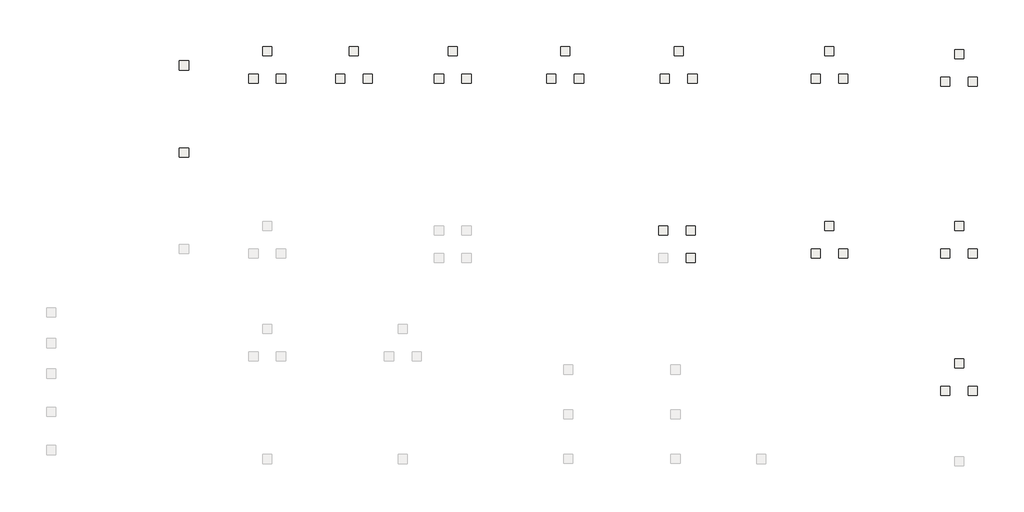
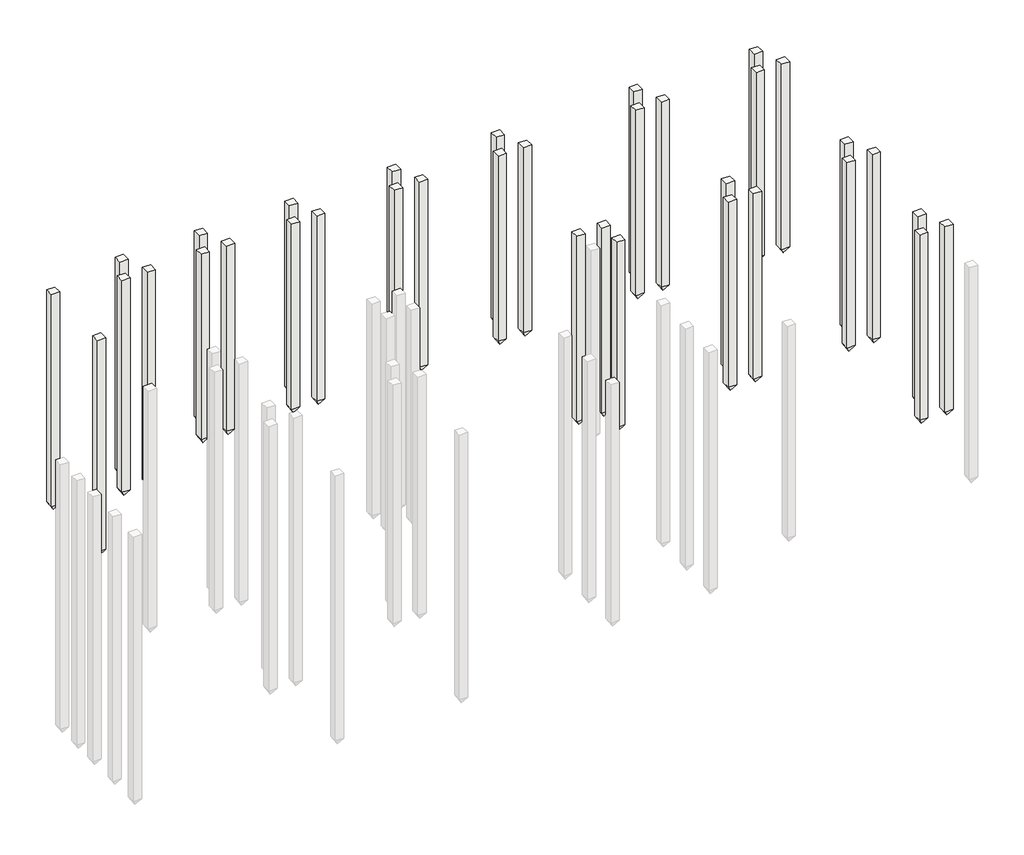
# One storey, part 6 of 6: 35 slabs.
"""IFC4 building model written with IfcOpenShell, lengths in millimetres."""

from ifc_helpers import new_model, si_unit, origin, place, context, project, spatial, faceted_brep, element, save

model = new_model("IFC4")

# Units and contexts
model_context = context("Model", 3, world=origin())
ifc_project = project(units=[si_unit("LENGTHUNIT", "METRE", prefix="MILLI")], contexts=[model_context])

# Site, building, storey
site = spatial("IfcSite", under=ifc_project)
building = spatial("IfcBuilding", under=site)
storey = spatial("IfcBuildingStorey", under=building, Name="КЖм.-1.150 (Верх свай 1)", Elevation=-1150.0)

# Slabs
placement = place(None, origin())
element("IfcSlab", 1, ObjectType="Бетонная свая прямоугольного сечения : C70.30-8", at=placement, inside=storey, context=model_context, shape_type="Brep", body=[
    faceted_brep([(51163.050956, 29934.4354275, -1150.0), (50863.050956, 29934.4354275, -1150.0), (50863.050956, 29634.4354275, -1150.0), (51163.050956, 29634.4354275, -1150.0), (51163.050956, 29934.4354275, -1200.0), (51163.050956, 29934.4354275, -1300.0), (51163.050956, 29934.4354275, -8150.0), (50863.050956, 29934.4354275, -8150.0), (50863.050956, 29934.4354275, -1300.0), (50863.050956, 29934.4354275, -1200.0), (50863.050956, 29634.4354275, -8150.0), (50863.050956, 29634.4354275, -1300.0), (50863.050956, 29634.4354275, -1200.0), (51163.050956, 29634.4354275, -8150.0), (51163.050956, 29634.4354275, -1300.0), (51163.050956, 29634.4354275, -1200.0), (51013.4735173, 29784.8156726, -8400.0), (51013.4735173, 29784.0156726, -8400.0), (51012.6735173, 29784.0156726, -8400.0), (51012.6735173, 29784.8156726, -8400.0)], [[[0, 1, 2, 3]], [[1, 0, 4, 5, 6, 7, 8, 9]], [[2, 1, 9, 8, 7, 10, 11, 12]], [[3, 2, 12, 11, 10, 13, 14, 15]], [[0, 3, 15, 14, 13, 6, 5, 4]], [[16, 17, 18, 19]], [[17, 16, 6, 13]], [[18, 17, 13, 10]], [[19, 18, 10, 7]], [[16, 19, 7, 6]]]),
])
element("IfcSlab", 2, ObjectType="Бетонная свая прямоугольного сечения : C70.30-8", at=placement, inside=storey, context=model_context, shape_type="Brep", body=[
    faceted_brep([(60383.0255217, 34804.4786856, -1150.0), (60083.0255217, 34804.4786856, -1150.0), (60083.0255217, 34504.4786856, -1150.0), (60383.0255217, 34504.4786856, -1150.0), (60383.0255217, 34804.4786856, -1200.0), (60383.0255217, 34804.4786856, -1300.0), (60383.0255217, 34804.4786856, -8150.0), (60083.0255217, 34804.4786856, -8150.0), (60083.0255217, 34804.4786856, -1300.0), (60083.0255217, 34804.4786856, -1200.0), (60083.0255217, 34504.4786856, -8150.0), (60083.0255217, 34504.4786856, -1300.0), (60083.0255217, 34504.4786856, -1200.0), (60383.0255217, 34504.4786856, -8150.0), (60383.0255217, 34504.4786856, -1300.0), (60383.0255217, 34504.4786856, -1200.0), (60233.4480829, 34654.8589307, -8400.0), (60233.4480829, 34654.0589307, -8400.0), (60232.6480829, 34654.0589307, -8400.0), (60232.6480829, 34654.8589307, -8400.0)], [[[0, 1, 2, 3]], [[1, 0, 4, 5, 6, 7, 8, 9]], [[2, 1, 9, 8, 7, 10, 11, 12]], [[3, 2, 12, 11, 10, 13, 14, 15]], [[0, 3, 15, 14, 13, 6, 5, 4]], [[16, 17, 18, 19]], [[17, 16, 6, 13]], [[18, 17, 13, 10]], [[19, 18, 10, 7]], [[16, 19, 7, 6]]]),
])
element("IfcSlab", 3, ObjectType="Бетонная свая прямоугольного сечения : C70.30-8", at=placement, inside=storey, context=model_context, shape_type="Brep", body=[
    faceted_brep([(60833.0481815, 35704.4786829, -1150.0), (60533.0481815, 35704.4786829, -1150.0), (60533.0481815, 35404.4786829, -1150.0), (60833.0481815, 35404.4786829, -1150.0), (60833.0481815, 35704.4786829, -1200.0), (60833.0481815, 35704.4786829, -1300.0), (60833.0481815, 35704.4786829, -8150.0), (60533.0481815, 35704.4786829, -8150.0), (60533.0481815, 35704.4786829, -1300.0), (60533.0481815, 35704.4786829, -1200.0), (60533.0481815, 35404.4786829, -8150.0), (60533.0481815, 35404.4786829, -1300.0), (60533.0481815, 35404.4786829, -1200.0), (60833.0481815, 35404.4786829, -8150.0), (60833.0481815, 35404.4786829, -1300.0), (60833.0481815, 35404.4786829, -1200.0), (60683.4707427, 35554.858928, -8400.0), (60683.4707427, 35554.058928, -8400.0), (60682.6707427, 35554.058928, -8400.0), (60682.6707427, 35554.858928, -8400.0)], [[[0, 1, 2, 3]], [[1, 0, 4, 5, 6, 7, 8, 9]], [[2, 1, 9, 8, 7, 10, 11, 12]], [[3, 2, 12, 11, 10, 13, 14, 15]], [[0, 3, 15, 14, 13, 6, 5, 4]], [[16, 17, 18, 19]], [[17, 16, 6, 13]], [[18, 17, 13, 10]], [[19, 18, 10, 7]], [[16, 19, 7, 6]]]),
])
element("IfcSlab", 4, ObjectType="Бетонная свая прямоугольного сечения : C70.30-8", at=placement, inside=storey, context=model_context, shape_type="Brep", body=[
    faceted_brep([(60982.9772368, 34804.4785941, -1150.0), (60982.9771454, 34504.4785941, -1150.0), (61282.9771454, 34504.4785026, -1150.0), (61282.9772368, 34804.4785026, -1150.0), (61282.9772368, 34804.4785026, -1200.0), (61282.9772368, 34804.4785026, -1300.0), (61282.9772368, 34804.4785026, -8150.0), (60982.9772368, 34804.4785941, -8150.0), (60982.9772368, 34804.4785941, -1300.0), (60982.9772368, 34804.4785941, -1200.0), (61282.9771454, 34504.4785026, -1200.0), (61282.9771454, 34504.4785026, -1300.0), (61282.9771454, 34504.4785026, -8150.0), (60982.9771454, 34504.4785941, -1200.0), (60982.9771454, 34504.4785941, -1300.0), (60982.9771454, 34504.4785941, -8150.0), (61132.55463, 34654.8587936, -8400.0), (61133.35463, 34654.8587934, -8400.0), (61133.3546297, 34654.0587934, -8400.0), (61132.5546297, 34654.0587936, -8400.0)], [[[0, 1, 2, 3]], [[3, 4, 5, 6, 7, 8, 9, 0]], [[2, 10, 11, 12, 6, 5, 4, 3]], [[1, 13, 14, 15, 12, 11, 10, 2]], [[0, 9, 8, 7, 15, 14, 13, 1]], [[16, 17, 18, 19]], [[19, 15, 7, 16]], [[18, 12, 15, 19]], [[17, 6, 12, 18]], [[16, 7, 6, 17]]]),
])
element("IfcSlab", 5, ObjectType="Бетонная свая прямоугольного сечения : C70.30-8", at=placement, inside=storey, context=model_context, shape_type="Brep", body=[
    faceted_brep([(56143.0513106, 34904.4703543, -1150.0), (55843.0513106, 34904.4703543, -1150.0), (55843.0513106, 34604.4703543, -1150.0), (56143.0513106, 34604.4703543, -1150.0), (56143.0513106, 34904.4703543, -1200.0), (56143.0513106, 34904.4703543, -1300.0), (56143.0513106, 34904.4703543, -8150.0), (55843.0513106, 34904.4703543, -8150.0), (55843.0513106, 34904.4703543, -1300.0), (55843.0513106, 34904.4703543, -1200.0), (55843.0513106, 34604.4703543, -8150.0), (55843.0513106, 34604.4703543, -1300.0), (55843.0513106, 34604.4703543, -1200.0), (56143.0513106, 34604.4703543, -8150.0), (56143.0513106, 34604.4703543, -1300.0), (56143.0513106, 34604.4703543, -1200.0), (55993.4738718, 34754.8505994, -8400.0), (55993.4738718, 34754.0505994, -8400.0), (55992.6738718, 34754.0505994, -8400.0), (55992.6738718, 34754.8505994, -8400.0)], [[[0, 1, 2, 3]], [[1, 0, 4, 5, 6, 7, 8, 9]], [[2, 1, 9, 8, 7, 10, 11, 12]], [[3, 2, 12, 11, 10, 13, 14, 15]], [[0, 3, 15, 14, 13, 6, 5, 4]], [[16, 17, 18, 19]], [[17, 16, 6, 13]], [[18, 17, 13, 10]], [[19, 18, 10, 7]], [[16, 19, 7, 6]]]),
])
element("IfcSlab", 6, ObjectType="Бетонная свая прямоугольного сечения : C70.30-8", at=placement, inside=storey, context=model_context, shape_type="Brep", body=[
    faceted_brep([(56593.0772825, 35804.4703516, -1150.0), (56293.0772825, 35804.4703516, -1150.0), (56293.0772825, 35504.4703516, -1150.0), (56593.0772825, 35504.4703516, -1150.0), (56593.0772825, 35804.4703516, -1200.0), (56593.0772825, 35804.4703516, -1300.0), (56593.0772825, 35804.4703516, -8150.0), (56293.0772825, 35804.4703516, -8150.0), (56293.0772825, 35804.4703516, -1300.0), (56293.0772825, 35804.4703516, -1200.0), (56293.0772825, 35504.4703516, -8150.0), (56293.0772825, 35504.4703516, -1300.0), (56293.0772825, 35504.4703516, -1200.0), (56593.0772825, 35504.4703516, -8150.0), (56593.0772825, 35504.4703516, -1300.0), (56593.0772825, 35504.4703516, -1200.0), (56443.4998438, 35654.8505967, -8400.0), (56443.4998438, 35654.0505967, -8400.0), (56442.6998438, 35654.0505967, -8400.0), (56442.6998438, 35654.8505967, -8400.0)], [[[0, 1, 2, 3]], [[1, 0, 4, 5, 6, 7, 8, 9]], [[2, 1, 9, 8, 7, 10, 11, 12]], [[3, 2, 12, 11, 10, 13, 14, 15]], [[0, 3, 15, 14, 13, 6, 5, 4]], [[16, 17, 18, 19]], [[17, 16, 6, 13]], [[18, 17, 13, 10]], [[19, 18, 10, 7]], [[16, 19, 7, 6]]]),
])
element("IfcSlab", 7, ObjectType="Бетонная свая прямоугольного сечения : C70.30-8", at=placement, inside=storey, context=model_context, shape_type="Brep", body=[
    faceted_brep([(56743.0030258, 34904.4702628, -1150.0), (56743.0029343, 34604.4702628, -1150.0), (57043.0029343, 34604.4701713, -1150.0), (57043.0030258, 34904.4701713, -1150.0), (57043.0030258, 34904.4701713, -1200.0), (57043.0030258, 34904.4701713, -1300.0), (57043.0030258, 34904.4701713, -8150.0), (56743.0030258, 34904.4702628, -8150.0), (56743.0030258, 34904.4702628, -1300.0), (56743.0030258, 34904.4702628, -1200.0), (57043.0029343, 34604.4701713, -1200.0), (57043.0029343, 34604.4701713, -1300.0), (57043.0029343, 34604.4701713, -8150.0), (56743.0029343, 34604.4702628, -1200.0), (56743.0029343, 34604.4702628, -1300.0), (56743.0029343, 34604.4702628, -8150.0), (56892.5804189, 34754.8504623, -8400.0), (56893.3804189, 34754.8504621, -8400.0), (56893.3804187, 34754.0504621, -8400.0), (56892.5804187, 34754.0504623, -8400.0)], [[[0, 1, 2, 3]], [[3, 4, 5, 6, 7, 8, 9, 0]], [[2, 10, 11, 12, 6, 5, 4, 3]], [[1, 13, 14, 15, 12, 11, 10, 2]], [[0, 9, 8, 7, 15, 14, 13, 1]], [[16, 17, 18, 19]], [[19, 15, 7, 16]], [[18, 12, 15, 19]], [[17, 6, 12, 18]], [[16, 7, 6, 17]]]),
])
element("IfcSlab", 8, ObjectType="Бетонная свая прямоугольного сечения : C70.30-8", at=placement, inside=storey, context=model_context, shape_type="Brep", body=[
    faceted_brep([(51218.0515965, 34904.4703543, -1150.0), (50918.0515965, 34904.4703543, -1150.0), (50918.0515965, 34604.4703543, -1150.0), (51218.0515965, 34604.4703543, -1150.0), (51218.0515965, 34904.4703543, -1200.0), (51218.0515965, 34904.4703543, -1300.0), (51218.0515965, 34904.4703543, -8150.0), (50918.0515965, 34904.4703543, -8150.0), (50918.0515965, 34904.4703543, -1300.0), (50918.0515965, 34904.4703543, -1200.0), (50918.0515965, 34604.4703543, -8150.0), (50918.0515965, 34604.4703543, -1300.0), (50918.0515965, 34604.4703543, -1200.0), (51218.0515965, 34604.4703543, -8150.0), (51218.0515965, 34604.4703543, -1300.0), (51218.0515965, 34604.4703543, -1200.0), (51068.4741578, 34754.8505994, -8400.0), (51068.4741578, 34754.0505994, -8400.0), (51067.6741578, 34754.0505994, -8400.0), (51067.6741578, 34754.8505994, -8400.0)], [[[0, 1, 2, 3]], [[1, 0, 4, 5, 6, 7, 8, 9]], [[2, 1, 9, 8, 7, 10, 11, 12]], [[3, 2, 12, 11, 10, 13, 14, 15]], [[0, 3, 15, 14, 13, 6, 5, 4]], [[16, 17, 18, 19]], [[17, 16, 6, 13]], [[18, 17, 13, 10]], [[19, 18, 10, 7]], [[16, 19, 7, 6]]]),
])
element("IfcSlab", 9, ObjectType="Бетонная свая прямоугольного сечения : C70.30-8", at=placement, inside=storey, context=model_context, shape_type="Brep", body=[
    faceted_brep([(51668.0775685, 35804.4703516, -1150.0), (51368.0775685, 35804.4703516, -1150.0), (51368.0775685, 35504.4703516, -1150.0), (51668.0775685, 35504.4703516, -1150.0), (51668.0775685, 35804.4703516, -1200.0), (51668.0775685, 35804.4703516, -1300.0), (51668.0775685, 35804.4703516, -8150.0), (51368.0775685, 35804.4703516, -8150.0), (51368.0775685, 35804.4703516, -1300.0), (51368.0775685, 35804.4703516, -1200.0), (51368.0775685, 35504.4703516, -8150.0), (51368.0775685, 35504.4703516, -1300.0), (51368.0775685, 35504.4703516, -1200.0), (51668.0775685, 35504.4703516, -8150.0), (51668.0775685, 35504.4703516, -1300.0), (51668.0775685, 35504.4703516, -1200.0), (51518.5001297, 35654.8505967, -8400.0), (51518.5001297, 35654.0505967, -8400.0), (51517.7001297, 35654.0505967, -8400.0), (51517.7001297, 35654.8505967, -8400.0)], [[[0, 1, 2, 3]], [[1, 0, 4, 5, 6, 7, 8, 9]], [[2, 1, 9, 8, 7, 10, 11, 12]], [[3, 2, 12, 11, 10, 13, 14, 15]], [[0, 3, 15, 14, 13, 6, 5, 4]], [[16, 17, 18, 19]], [[17, 16, 6, 13]], [[18, 17, 13, 10]], [[19, 18, 10, 7]], [[16, 19, 7, 6]]]),
])
element("IfcSlab", 10, ObjectType="Бетонная свая прямоугольного сечения : C70.30-8", at=placement, inside=storey, context=model_context, shape_type="Brep", body=[
    faceted_brep([(51818.0033117, 34904.4702628, -1150.0), (51818.0032202, 34604.4702628, -1150.0), (52118.0032202, 34604.4701713, -1150.0), (52118.0033117, 34904.4701713, -1150.0), (52118.0033117, 34904.4701713, -1200.0), (52118.0033117, 34904.4701713, -1300.0), (52118.0033117, 34904.4701713, -8150.0), (51818.0033117, 34904.4702628, -8150.0), (51818.0033117, 34904.4702628, -1300.0), (51818.0033117, 34904.4702628, -1200.0), (52118.0032202, 34604.4701713, -1200.0), (52118.0032202, 34604.4701713, -1300.0), (52118.0032202, 34604.4701713, -8150.0), (51818.0032202, 34604.4702628, -1200.0), (51818.0032202, 34604.4702628, -1300.0), (51818.0032202, 34604.4702628, -8150.0), (51967.5807049, 34754.8504623, -8400.0), (51968.3807049, 34754.8504621, -8400.0), (51968.3807046, 34754.0504621, -8400.0), (51967.5807046, 34754.0504623, -8400.0)], [[[0, 1, 2, 3]], [[3, 4, 5, 6, 7, 8, 9, 0]], [[2, 10, 11, 12, 6, 5, 4, 3]], [[1, 13, 14, 15, 12, 11, 10, 2]], [[0, 9, 8, 7, 15, 14, 13, 1]], [[16, 17, 18, 19]], [[19, 15, 7, 16]], [[18, 12, 15, 19]], [[17, 6, 12, 18]], [[16, 7, 6, 17]]]),
])
element("IfcSlab", 11, ObjectType="Бетонная свая прямоугольного сечения : C70.30-8", at=placement, inside=storey, context=model_context, shape_type="Brep", body=[
    faceted_brep([(47508.0512918, 34904.4703543, -1150.0), (47208.0512918, 34904.4703543, -1150.0), (47208.0512918, 34604.4703543, -1150.0), (47508.0512918, 34604.4703543, -1150.0), (47508.0512918, 34904.4703543, -1200.0), (47508.0512918, 34904.4703543, -1300.0), (47508.0512918, 34904.4703543, -8150.0), (47208.0512918, 34904.4703543, -8150.0), (47208.0512918, 34904.4703543, -1300.0), (47208.0512918, 34904.4703543, -1200.0), (47208.0512918, 34604.4703543, -8150.0), (47208.0512918, 34604.4703543, -1300.0), (47208.0512918, 34604.4703543, -1200.0), (47508.0512918, 34604.4703543, -8150.0), (47508.0512918, 34604.4703543, -1300.0), (47508.0512918, 34604.4703543, -1200.0), (47358.473853, 34754.8505994, -8400.0), (47358.473853, 34754.0505994, -8400.0), (47357.673853, 34754.0505994, -8400.0), (47357.673853, 34754.8505994, -8400.0)], [[[0, 1, 2, 3]], [[1, 0, 4, 5, 6, 7, 8, 9]], [[2, 1, 9, 8, 7, 10, 11, 12]], [[3, 2, 12, 11, 10, 13, 14, 15]], [[0, 3, 15, 14, 13, 6, 5, 4]], [[16, 17, 18, 19]], [[17, 16, 6, 13]], [[18, 17, 13, 10]], [[19, 18, 10, 7]], [[16, 19, 7, 6]]]),
])
element("IfcSlab", 12, ObjectType="Бетонная свая прямоугольного сечения : C70.30-8", at=placement, inside=storey, context=model_context, shape_type="Brep", body=[
    faceted_brep([(47958.0772637, 35804.4703516, -1150.0), (47658.0772637, 35804.4703516, -1150.0), (47658.0772637, 35504.4703516, -1150.0), (47958.0772637, 35504.4703516, -1150.0), (47958.0772637, 35804.4703516, -1200.0), (47958.0772637, 35804.4703516, -1300.0), (47958.0772637, 35804.4703516, -8150.0), (47658.0772637, 35804.4703516, -8150.0), (47658.0772637, 35804.4703516, -1300.0), (47658.0772637, 35804.4703516, -1200.0), (47658.0772637, 35504.4703516, -8150.0), (47658.0772637, 35504.4703516, -1300.0), (47658.0772637, 35504.4703516, -1200.0), (47958.0772637, 35504.4703516, -8150.0), (47958.0772637, 35504.4703516, -1300.0), (47958.0772637, 35504.4703516, -1200.0), (47808.4998249, 35654.8505967, -8400.0), (47808.4998249, 35654.0505967, -8400.0), (47807.6998249, 35654.0505967, -8400.0), (47807.6998249, 35654.8505967, -8400.0)], [[[0, 1, 2, 3]], [[1, 0, 4, 5, 6, 7, 8, 9]], [[2, 1, 9, 8, 7, 10, 11, 12]], [[3, 2, 12, 11, 10, 13, 14, 15]], [[0, 3, 15, 14, 13, 6, 5, 4]], [[16, 17, 18, 19]], [[17, 16, 6, 13]], [[18, 17, 13, 10]], [[19, 18, 10, 7]], [[16, 19, 7, 6]]]),
])
element("IfcSlab", 13, ObjectType="Бетонная свая прямоугольного сечения : C70.30-8", at=placement, inside=storey, context=model_context, shape_type="Brep", body=[
    faceted_brep([(48108.003007, 34904.4702628, -1150.0), (48108.0029155, 34604.4702628, -1150.0), (48408.0029155, 34604.4701713, -1150.0), (48408.003007, 34904.4701713, -1150.0), (48408.003007, 34904.4701713, -1200.0), (48408.003007, 34904.4701713, -1300.0), (48408.003007, 34904.4701713, -8150.0), (48108.003007, 34904.4702628, -8150.0), (48108.003007, 34904.4702628, -1300.0), (48108.003007, 34904.4702628, -1200.0), (48408.0029155, 34604.4701713, -1200.0), (48408.0029155, 34604.4701713, -1300.0), (48408.0029155, 34604.4701713, -8150.0), (48108.0029155, 34604.4702628, -1200.0), (48108.0029155, 34604.4702628, -1300.0), (48108.0029155, 34604.4702628, -8150.0), (48257.5804001, 34754.8504623, -8400.0), (48258.3804001, 34754.8504621, -8400.0), (48258.3803999, 34754.0504621, -8400.0), (48257.5803999, 34754.0504623, -8400.0)], [[[0, 1, 2, 3]], [[3, 4, 5, 6, 7, 8, 9, 0]], [[2, 10, 11, 12, 6, 5, 4, 3]], [[1, 13, 14, 15, 12, 11, 10, 2]], [[0, 9, 8, 7, 15, 14, 13, 1]], [[16, 17, 18, 19]], [[19, 15, 7, 16]], [[18, 12, 15, 19]], [[17, 6, 12, 18]], [[16, 7, 6, 17]]]),
])
element("IfcSlab", 14, ObjectType="Бетонная свая прямоугольного сечения : C70.30-8", at=placement, inside=storey, context=model_context, shape_type="Brep", body=[
    faceted_brep([(43833.0510704, 34904.4703543, -1150.0), (43533.0510704, 34904.4703543, -1150.0), (43533.0510704, 34604.4703543, -1150.0), (43833.0510704, 34604.4703543, -1150.0), (43833.0510704, 34904.4703543, -1200.0), (43833.0510704, 34904.4703543, -1300.0), (43833.0510704, 34904.4703543, -8150.0), (43533.0510704, 34904.4703543, -8150.0), (43533.0510704, 34904.4703543, -1300.0), (43533.0510704, 34904.4703543, -1200.0), (43533.0510704, 34604.4703543, -8150.0), (43533.0510704, 34604.4703543, -1300.0), (43533.0510704, 34604.4703543, -1200.0), (43833.0510704, 34604.4703543, -8150.0), (43833.0510704, 34604.4703543, -1300.0), (43833.0510704, 34604.4703543, -1200.0), (43683.4736316, 34754.8505994, -8400.0), (43683.4736316, 34754.0505994, -8400.0), (43682.6736316, 34754.0505994, -8400.0), (43682.6736316, 34754.8505994, -8400.0)], [[[0, 1, 2, 3]], [[1, 0, 4, 5, 6, 7, 8, 9]], [[2, 1, 9, 8, 7, 10, 11, 12]], [[3, 2, 12, 11, 10, 13, 14, 15]], [[0, 3, 15, 14, 13, 6, 5, 4]], [[16, 17, 18, 19]], [[17, 16, 6, 13]], [[18, 17, 13, 10]], [[19, 18, 10, 7]], [[16, 19, 7, 6]]]),
])
element("IfcSlab", 15, ObjectType="Бетонная свая прямоугольного сечения : C70.30-8", at=placement, inside=storey, context=model_context, shape_type="Brep", body=[
    faceted_brep([(44283.0770423, 35804.4703516, -1150.0), (43983.0770423, 35804.4703516, -1150.0), (43983.0770423, 35504.4703516, -1150.0), (44283.0770423, 35504.4703516, -1150.0), (44283.0770423, 35804.4703516, -1200.0), (44283.0770423, 35804.4703516, -1300.0), (44283.0770423, 35804.4703516, -8150.0), (43983.0770423, 35804.4703516, -8150.0), (43983.0770423, 35804.4703516, -1300.0), (43983.0770423, 35804.4703516, -1200.0), (43983.0770423, 35504.4703516, -8150.0), (43983.0770423, 35504.4703516, -1300.0), (43983.0770423, 35504.4703516, -1200.0), (44283.0770423, 35504.4703516, -8150.0), (44283.0770423, 35504.4703516, -1300.0), (44283.0770423, 35504.4703516, -1200.0), (44133.4996035, 35654.8505967, -8400.0), (44133.4996035, 35654.0505967, -8400.0), (44132.6996035, 35654.0505967, -8400.0), (44132.6996035, 35654.8505967, -8400.0)], [[[0, 1, 2, 3]], [[1, 0, 4, 5, 6, 7, 8, 9]], [[2, 1, 9, 8, 7, 10, 11, 12]], [[3, 2, 12, 11, 10, 13, 14, 15]], [[0, 3, 15, 14, 13, 6, 5, 4]], [[16, 17, 18, 19]], [[17, 16, 6, 13]], [[18, 17, 13, 10]], [[19, 18, 10, 7]], [[16, 19, 7, 6]]]),
])
element("IfcSlab", 16, ObjectType="Бетонная свая прямоугольного сечения : C70.30-8", at=placement, inside=storey, context=model_context, shape_type="Brep", body=[
    faceted_brep([(44433.0027856, 34904.4702628, -1150.0), (44433.0026941, 34604.4702628, -1150.0), (44733.0026941, 34604.4701713, -1150.0), (44733.0027856, 34904.4701713, -1150.0), (44733.0027856, 34904.4701713, -1200.0), (44733.0027856, 34904.4701713, -1300.0), (44733.0027856, 34904.4701713, -8150.0), (44433.0027856, 34904.4702628, -8150.0), (44433.0027856, 34904.4702628, -1300.0), (44433.0027856, 34904.4702628, -1200.0), (44733.0026941, 34604.4701713, -1200.0), (44733.0026941, 34604.4701713, -1300.0), (44733.0026941, 34604.4701713, -8150.0), (44433.0026941, 34604.4702628, -1200.0), (44433.0026941, 34604.4702628, -1300.0), (44433.0026941, 34604.4702628, -8150.0), (44582.5801787, 34754.8504623, -8400.0), (44583.3801787, 34754.8504621, -8400.0), (44583.3801785, 34754.0504621, -8400.0), (44582.5801785, 34754.0504623, -8400.0)], [[[0, 1, 2, 3]], [[3, 4, 5, 6, 7, 8, 9, 0]], [[2, 10, 11, 12, 6, 5, 4, 3]], [[1, 13, 14, 15, 12, 11, 10, 2]], [[0, 9, 8, 7, 15, 14, 13, 1]], [[16, 17, 18, 19]], [[19, 15, 7, 16]], [[18, 12, 15, 19]], [[17, 6, 12, 18]], [[16, 7, 6, 17]]]),
])
element("IfcSlab", 17, ObjectType="Бетонная свая прямоугольного сечения : C70.30-8", at=placement, inside=storey, context=model_context, shape_type="Brep", body=[
    faceted_brep([(40603.0506549, 34904.4703543, -1150.0), (40303.0506549, 34904.4703543, -1150.0), (40303.0506549, 34604.4703543, -1150.0), (40603.0506549, 34604.4703543, -1150.0), (40603.0506549, 34904.4703543, -1200.0), (40603.0506549, 34904.4703543, -1300.0), (40603.0506549, 34904.4703543, -8150.0), (40303.0506549, 34904.4703543, -8150.0), (40303.0506549, 34904.4703543, -1300.0), (40303.0506549, 34904.4703543, -1200.0), (40303.0506549, 34604.4703543, -8150.0), (40303.0506549, 34604.4703543, -1300.0), (40303.0506549, 34604.4703543, -1200.0), (40603.0506549, 34604.4703543, -8150.0), (40603.0506549, 34604.4703543, -1300.0), (40603.0506549, 34604.4703543, -1200.0), (40453.4732161, 34754.8505994, -8400.0), (40453.4732161, 34754.0505994, -8400.0), (40452.6732161, 34754.0505994, -8400.0), (40452.6732161, 34754.8505994, -8400.0)], [[[0, 1, 2, 3]], [[1, 0, 4, 5, 6, 7, 8, 9]], [[2, 1, 9, 8, 7, 10, 11, 12]], [[3, 2, 12, 11, 10, 13, 14, 15]], [[0, 3, 15, 14, 13, 6, 5, 4]], [[16, 17, 18, 19]], [[17, 16, 6, 13]], [[18, 17, 13, 10]], [[19, 18, 10, 7]], [[16, 19, 7, 6]]]),
])
element("IfcSlab", 18, ObjectType="Бетонная свая прямоугольного сечения : C70.30-8", at=placement, inside=storey, context=model_context, shape_type="Brep", body=[
    faceted_brep([(41053.0766268, 35804.4703516, -1150.0), (40753.0766268, 35804.4703516, -1150.0), (40753.0766268, 35504.4703516, -1150.0), (41053.0766268, 35504.4703516, -1150.0), (41053.0766268, 35804.4703516, -1200.0), (41053.0766268, 35804.4703516, -1300.0), (41053.0766268, 35804.4703516, -8150.0), (40753.0766268, 35804.4703516, -8150.0), (40753.0766268, 35804.4703516, -1300.0), (40753.0766268, 35804.4703516, -1200.0), (40753.0766268, 35504.4703516, -8150.0), (40753.0766268, 35504.4703516, -1300.0), (40753.0766268, 35504.4703516, -1200.0), (41053.0766268, 35504.4703516, -8150.0), (41053.0766268, 35504.4703516, -1300.0), (41053.0766268, 35504.4703516, -1200.0), (40903.499188, 35654.8505967, -8400.0), (40903.499188, 35654.0505967, -8400.0), (40902.699188, 35654.0505967, -8400.0), (40902.699188, 35654.8505967, -8400.0)], [[[0, 1, 2, 3]], [[1, 0, 4, 5, 6, 7, 8, 9]], [[2, 1, 9, 8, 7, 10, 11, 12]], [[3, 2, 12, 11, 10, 13, 14, 15]], [[0, 3, 15, 14, 13, 6, 5, 4]], [[16, 17, 18, 19]], [[17, 16, 6, 13]], [[18, 17, 13, 10]], [[19, 18, 10, 7]], [[16, 19, 7, 6]]]),
])
element("IfcSlab", 19, ObjectType="Бетонная свая прямоугольного сечения : C70.30-8", at=placement, inside=storey, context=model_context, shape_type="Brep", body=[
    faceted_brep([(41203.0023701, 34904.4702628, -1150.0), (41203.0022786, 34604.4702628, -1150.0), (41503.0022786, 34604.4701713, -1150.0), (41503.0023701, 34904.4701713, -1150.0), (41503.0023701, 34904.4701713, -1200.0), (41503.0023701, 34904.4701713, -1300.0), (41503.0023701, 34904.4701713, -8150.0), (41203.0023701, 34904.4702628, -8150.0), (41203.0023701, 34904.4702628, -1300.0), (41203.0023701, 34904.4702628, -1200.0), (41503.0022786, 34604.4701713, -1200.0), (41503.0022786, 34604.4701713, -1300.0), (41503.0022786, 34604.4701713, -8150.0), (41203.0022786, 34604.4702628, -1200.0), (41203.0022786, 34604.4702628, -1300.0), (41203.0022786, 34604.4702628, -8150.0), (41352.5797632, 34754.8504623, -8400.0), (41353.3797632, 34754.8504621, -8400.0), (41353.379763, 34754.0504621, -8400.0), (41352.579763, 34754.0504623, -8400.0)], [[[0, 1, 2, 3]], [[3, 4, 5, 6, 7, 8, 9, 0]], [[2, 10, 11, 12, 6, 5, 4, 3]], [[1, 13, 14, 15, 12, 11, 10, 2]], [[0, 9, 8, 7, 15, 14, 13, 1]], [[16, 17, 18, 19]], [[19, 15, 7, 16]], [[18, 12, 15, 19]], [[17, 6, 12, 18]], [[16, 7, 6, 17]]]),
])
element("IfcSlab", 20, ObjectType="Бетонная свая прямоугольного сечения : C70.30-8", at=placement, inside=storey, context=model_context, shape_type="Brep", body=[
    faceted_brep([(60383.0526656, 29184.4820845, -1150.0), (60083.0526656, 29184.4820845, -1150.0), (60083.0526656, 28884.4820845, -1150.0), (60383.0526656, 28884.4820845, -1150.0), (60383.0526656, 29184.4820845, -1200.0), (60383.0526656, 29184.4820845, -1300.0), (60383.0526656, 29184.4820845, -8150.0), (60083.0526656, 29184.4820845, -8150.0), (60083.0526656, 29184.4820845, -1300.0), (60083.0526656, 29184.4820845, -1200.0), (60083.0526656, 28884.4820845, -8150.0), (60083.0526656, 28884.4820845, -1300.0), (60083.0526656, 28884.4820845, -1200.0), (60383.0526656, 28884.4820845, -8150.0), (60383.0526656, 28884.4820845, -1300.0), (60383.0526656, 28884.4820845, -1200.0), (60233.4752268, 29034.8623296, -8400.0), (60233.4752268, 29034.0623296, -8400.0), (60232.6752268, 29034.0623296, -8400.0), (60232.6752268, 29034.8623296, -8400.0)], [[[0, 1, 2, 3]], [[1, 0, 4, 5, 6, 7, 8, 9]], [[2, 1, 9, 8, 7, 10, 11, 12]], [[3, 2, 12, 11, 10, 13, 14, 15]], [[0, 3, 15, 14, 13, 6, 5, 4]], [[16, 17, 18, 19]], [[17, 16, 6, 13]], [[18, 17, 13, 10]], [[19, 18, 10, 7]], [[16, 19, 7, 6]]]),
])
element("IfcSlab", 21, ObjectType="Бетонная свая прямоугольного сечения : C70.30-8", at=placement, inside=storey, context=model_context, shape_type="Brep", body=[
    faceted_brep([(60833.0786375, 30084.4820818, -1150.0), (60533.0786375, 30084.4820818, -1150.0), (60533.0786375, 29784.4820818, -1150.0), (60833.0786375, 29784.4820818, -1150.0), (60833.0786375, 30084.4820818, -1200.0), (60833.0786375, 30084.4820818, -1300.0), (60833.0786375, 30084.4820818, -8150.0), (60533.0786375, 30084.4820818, -8150.0), (60533.0786375, 30084.4820818, -1300.0), (60533.0786375, 30084.4820818, -1200.0), (60533.0786375, 29784.4820818, -8150.0), (60533.0786375, 29784.4820818, -1300.0), (60533.0786375, 29784.4820818, -1200.0), (60833.0786375, 29784.4820818, -8150.0), (60833.0786375, 29784.4820818, -1300.0), (60833.0786375, 29784.4820818, -1200.0), (60683.5011987, 29934.8623269, -8400.0), (60683.5011987, 29934.0623269, -8400.0), (60682.7011987, 29934.0623269, -8400.0), (60682.7011987, 29934.8623269, -8400.0)], [[[0, 1, 2, 3]], [[1, 0, 4, 5, 6, 7, 8, 9]], [[2, 1, 9, 8, 7, 10, 11, 12]], [[3, 2, 12, 11, 10, 13, 14, 15]], [[0, 3, 15, 14, 13, 6, 5, 4]], [[16, 17, 18, 19]], [[17, 16, 6, 13]], [[18, 17, 13, 10]], [[19, 18, 10, 7]], [[16, 19, 7, 6]]]),
])
element("IfcSlab", 22, ObjectType="Бетонная свая прямоугольного сечения : C70.30-8", at=placement, inside=storey, context=model_context, shape_type="Brep", body=[
    faceted_brep([(60983.0043807, 29184.4819931, -1150.0), (60983.0042893, 28884.4819931, -1150.0), (61283.0042893, 28884.4819016, -1150.0), (61283.0043807, 29184.4819016, -1150.0), (61283.0043807, 29184.4819016, -1200.0), (61283.0043807, 29184.4819016, -1300.0), (61283.0043807, 29184.4819016, -8150.0), (60983.0043807, 29184.4819931, -8150.0), (60983.0043807, 29184.4819931, -1300.0), (60983.0043807, 29184.4819931, -1200.0), (61283.0042893, 28884.4819016, -1200.0), (61283.0042893, 28884.4819016, -1300.0), (61283.0042893, 28884.4819016, -8150.0), (60983.0042893, 28884.4819931, -1200.0), (60983.0042893, 28884.4819931, -1300.0), (60983.0042893, 28884.4819931, -8150.0), (61132.5817739, 29034.8621925, -8400.0), (61133.3817739, 29034.8621923, -8400.0), (61133.3817736, 29034.0621923, -8400.0), (61132.5817736, 29034.0621925, -8400.0)], [[[0, 1, 2, 3]], [[3, 4, 5, 6, 7, 8, 9, 0]], [[2, 10, 11, 12, 6, 5, 4, 3]], [[1, 13, 14, 15, 12, 11, 10, 2]], [[0, 9, 8, 7, 15, 14, 13, 1]], [[16, 17, 18, 19]], [[19, 15, 7, 16]], [[18, 12, 15, 19]], [[17, 6, 12, 18]], [[16, 7, 6, 17]]]),
])
element("IfcSlab", 23, ObjectType="Бетонная свая прямоугольного сечения : C70.30-8", at=placement, inside=storey, context=model_context, shape_type="Brep", body=[
    faceted_brep([(56143.0513106, 29184.4704078, -1150.0), (55843.0513106, 29184.4704078, -1150.0), (55843.0513106, 28884.4704078, -1150.0), (56143.0513106, 28884.4704078, -1150.0), (56143.0513106, 29184.4704078, -1200.0), (56143.0513106, 29184.4704078, -1300.0), (56143.0513106, 29184.4704078, -8150.0), (55843.0513106, 29184.4704078, -8150.0), (55843.0513106, 29184.4704078, -1300.0), (55843.0513106, 29184.4704078, -1200.0), (55843.0513106, 28884.4704078, -8150.0), (55843.0513106, 28884.4704078, -1300.0), (55843.0513106, 28884.4704078, -1200.0), (56143.0513106, 28884.4704078, -8150.0), (56143.0513106, 28884.4704078, -1300.0), (56143.0513106, 28884.4704078, -1200.0), (55993.4738718, 29034.8506529, -8400.0), (55993.4738718, 29034.0506529, -8400.0), (55992.6738718, 29034.0506529, -8400.0), (55992.6738718, 29034.8506529, -8400.0)], [[[0, 1, 2, 3]], [[1, 0, 4, 5, 6, 7, 8, 9]], [[2, 1, 9, 8, 7, 10, 11, 12]], [[3, 2, 12, 11, 10, 13, 14, 15]], [[0, 3, 15, 14, 13, 6, 5, 4]], [[16, 17, 18, 19]], [[17, 16, 6, 13]], [[18, 17, 13, 10]], [[19, 18, 10, 7]], [[16, 19, 7, 6]]]),
])
element("IfcSlab", 24, ObjectType="Бетонная свая прямоугольного сечения : C70.30-8", at=placement, inside=storey, context=model_context, shape_type="Brep", body=[
    faceted_brep([(56593.0772825, 30084.4704051, -1150.0), (56293.0772825, 30084.4704051, -1150.0), (56293.0772825, 29784.4704051, -1150.0), (56593.0772825, 29784.4704051, -1150.0), (56593.0772825, 30084.4704051, -1200.0), (56593.0772825, 30084.4704051, -1300.0), (56593.0772825, 30084.4704051, -8150.0), (56293.0772825, 30084.4704051, -8150.0), (56293.0772825, 30084.4704051, -1300.0), (56293.0772825, 30084.4704051, -1200.0), (56293.0772825, 29784.4704051, -8150.0), (56293.0772825, 29784.4704051, -1300.0), (56293.0772825, 29784.4704051, -1200.0), (56593.0772825, 29784.4704051, -8150.0), (56593.0772825, 29784.4704051, -1300.0), (56593.0772825, 29784.4704051, -1200.0), (56443.4998438, 29934.8506502, -8400.0), (56443.4998438, 29934.0506502, -8400.0), (56442.6998438, 29934.0506502, -8400.0), (56442.6998438, 29934.8506502, -8400.0)], [[[0, 1, 2, 3]], [[1, 0, 4, 5, 6, 7, 8, 9]], [[2, 1, 9, 8, 7, 10, 11, 12]], [[3, 2, 12, 11, 10, 13, 14, 15]], [[0, 3, 15, 14, 13, 6, 5, 4]], [[16, 17, 18, 19]], [[17, 16, 6, 13]], [[18, 17, 13, 10]], [[19, 18, 10, 7]], [[16, 19, 7, 6]]]),
])
element("IfcSlab", 25, ObjectType="Бетонная свая прямоугольного сечения : C70.30-8", at=placement, inside=storey, context=model_context, shape_type="Brep", body=[
    faceted_brep([(56743.0030258, 29184.4703164, -1150.0), (56743.0029343, 28884.4703164, -1150.0), (57043.0029343, 28884.4702249, -1150.0), (57043.0030258, 29184.4702249, -1150.0), (57043.0030258, 29184.4702249, -1200.0), (57043.0030258, 29184.4702249, -1300.0), (57043.0030258, 29184.4702249, -8150.0), (56743.0030258, 29184.4703164, -8150.0), (56743.0030258, 29184.4703164, -1300.0), (56743.0030258, 29184.4703164, -1200.0), (57043.0029343, 28884.4702249, -1200.0), (57043.0029343, 28884.4702249, -1300.0), (57043.0029343, 28884.4702249, -8150.0), (56743.0029343, 28884.4703164, -1200.0), (56743.0029343, 28884.4703164, -1300.0), (56743.0029343, 28884.4703164, -8150.0), (56892.5804189, 29034.8505158, -8400.0), (56893.3804189, 29034.8505156, -8400.0), (56893.3804187, 29034.0505156, -8400.0), (56892.5804187, 29034.0505158, -8400.0)], [[[0, 1, 2, 3]], [[3, 4, 5, 6, 7, 8, 9, 0]], [[2, 10, 11, 12, 6, 5, 4, 3]], [[1, 13, 14, 15, 12, 11, 10, 2]], [[0, 9, 8, 7, 15, 14, 13, 1]], [[16, 17, 18, 19]], [[19, 15, 7, 16]], [[18, 12, 15, 19]], [[17, 6, 12, 18]], [[16, 7, 6, 17]]]),
])
element("IfcSlab", 26, ObjectType="Бетонная свая прямоугольного сечения : C70.30-8", at=placement, inside=storey, context=model_context, shape_type="Brep", body=[
    faceted_brep([(60383.0507459, 24684.4786703, -1150.0), (60083.0507459, 24684.4786703, -1150.0), (60083.0507459, 24384.4786703, -1150.0), (60383.0507459, 24384.4786703, -1150.0), (60383.0507459, 24684.4786703, -1200.0), (60383.0507459, 24684.4786703, -1300.0), (60383.0507459, 24684.4786703, -8150.0), (60083.0507459, 24684.4786703, -8150.0), (60083.0507459, 24684.4786703, -1300.0), (60083.0507459, 24684.4786703, -1200.0), (60083.0507459, 24384.4786703, -8150.0), (60083.0507459, 24384.4786703, -1300.0), (60083.0507459, 24384.4786703, -1200.0), (60383.0507459, 24384.4786703, -8150.0), (60383.0507459, 24384.4786703, -1300.0), (60383.0507459, 24384.4786703, -1200.0), (60233.4733071, 24534.8589154, -8400.0), (60233.4733071, 24534.0589154, -8400.0), (60232.6733071, 24534.0589154, -8400.0), (60232.6733071, 24534.8589154, -8400.0)], [[[0, 1, 2, 3]], [[1, 0, 4, 5, 6, 7, 8, 9]], [[2, 1, 9, 8, 7, 10, 11, 12]], [[3, 2, 12, 11, 10, 13, 14, 15]], [[0, 3, 15, 14, 13, 6, 5, 4]], [[16, 17, 18, 19]], [[17, 16, 6, 13]], [[18, 17, 13, 10]], [[19, 18, 10, 7]], [[16, 19, 7, 6]]]),
])
element("IfcSlab", 27, ObjectType="Бетонная свая прямоугольного сечения : C70.30-8", at=placement, inside=storey, context=model_context, shape_type="Brep", body=[
    faceted_brep([(60833.0767178, 25584.4786676, -1150.0), (60533.0767178, 25584.4786676, -1150.0), (60533.0767178, 25284.4786676, -1150.0), (60833.0767178, 25284.4786676, -1150.0), (60833.0767178, 25584.4786676, -1200.0), (60833.0767178, 25584.4786676, -1300.0), (60833.0767178, 25584.4786676, -8150.0), (60533.0767178, 25584.4786676, -8150.0), (60533.0767178, 25584.4786676, -1300.0), (60533.0767178, 25584.4786676, -1200.0), (60533.0767178, 25284.4786676, -8150.0), (60533.0767178, 25284.4786676, -1300.0), (60533.0767178, 25284.4786676, -1200.0), (60833.0767178, 25284.4786676, -8150.0), (60833.0767178, 25284.4786676, -1300.0), (60833.0767178, 25284.4786676, -1200.0), (60683.4992791, 25434.8589127, -8400.0), (60683.4992791, 25434.0589127, -8400.0), (60682.6992791, 25434.0589127, -8400.0), (60682.6992791, 25434.8589127, -8400.0)], [[[0, 1, 2, 3]], [[1, 0, 4, 5, 6, 7, 8, 9]], [[2, 1, 9, 8, 7, 10, 11, 12]], [[3, 2, 12, 11, 10, 13, 14, 15]], [[0, 3, 15, 14, 13, 6, 5, 4]], [[16, 17, 18, 19]], [[17, 16, 6, 13]], [[18, 17, 13, 10]], [[19, 18, 10, 7]], [[16, 19, 7, 6]]]),
])
element("IfcSlab", 28, ObjectType="Бетонная свая прямоугольного сечения : C70.30-8", at=placement, inside=storey, context=model_context, shape_type="Brep", body=[
    faceted_brep([(60983.0024611, 24684.4785789, -1150.0), (60983.0023696, 24384.4785789, -1150.0), (61283.0023696, 24384.4784874, -1150.0), (61283.0024611, 24684.4784874, -1150.0), (61283.0024611, 24684.4784874, -1200.0), (61283.0024611, 24684.4784874, -1300.0), (61283.0024611, 24684.4784874, -8150.0), (60983.0024611, 24684.4785789, -8150.0), (60983.0024611, 24684.4785789, -1300.0), (60983.0024611, 24684.4785789, -1200.0), (61283.0023696, 24384.4784874, -1200.0), (61283.0023696, 24384.4784874, -1300.0), (61283.0023696, 24384.4784874, -8150.0), (60983.0023696, 24384.4785789, -1200.0), (60983.0023696, 24384.4785789, -1300.0), (60983.0023696, 24384.4785789, -8150.0), (61132.5798542, 24534.8587784, -8400.0), (61133.3798542, 24534.8587781, -8400.0), (61133.379854, 24534.0587781, -8400.0), (61132.579854, 24534.0587784, -8400.0)], [[[0, 1, 2, 3]], [[3, 4, 5, 6, 7, 8, 9, 0]], [[2, 10, 11, 12, 6, 5, 4, 3]], [[1, 13, 14, 15, 12, 11, 10, 2]], [[0, 9, 8, 7, 15, 14, 13, 1]], [[16, 17, 18, 19]], [[19, 15, 7, 16]], [[18, 12, 15, 19]], [[17, 6, 12, 18]], [[16, 7, 6, 17]]]),
])
element("IfcSlab", 29, ObjectType="Бетонная свая прямоугольного сечения : C70.30-8", at=placement, inside=storey, context=model_context, shape_type="Brep", body=[
    faceted_brep([(51763.0508895, 29934.4353361, -1150.0), (51763.0507981, 29634.4353361, -1150.0), (52063.0507981, 29634.4352446, -1150.0), (52063.0508895, 29934.4352446, -1150.0), (52063.0508895, 29934.4352446, -1200.0), (52063.0508895, 29934.4352446, -1300.0), (52063.0508895, 29934.4352446, -8150.0), (51763.0508895, 29934.4353361, -8150.0), (51763.0508895, 29934.4353361, -1300.0), (51763.0508895, 29934.4353361, -1200.0), (52063.0507981, 29634.4352446, -1200.0), (52063.0507981, 29634.4352446, -1300.0), (52063.0507981, 29634.4352446, -8150.0), (51763.0507981, 29634.4353361, -1200.0), (51763.0507981, 29634.4353361, -1300.0), (51763.0507981, 29634.4353361, -8150.0), (51912.6282827, 29784.8155355, -8400.0), (51913.4282827, 29784.8155353, -8400.0), (51913.4282824, 29784.0155353, -8400.0), (51912.6282824, 29784.0155355, -8400.0)], [[[0, 1, 2, 3]], [[3, 4, 5, 6, 7, 8, 9, 0]], [[2, 10, 11, 12, 6, 5, 4, 3]], [[1, 13, 14, 15, 12, 11, 10, 2]], [[0, 9, 8, 7, 15, 14, 13, 1]], [[16, 17, 18, 19]], [[19, 15, 7, 16]], [[18, 12, 15, 19]], [[17, 6, 12, 18]], [[16, 7, 6, 17]]]),
])
element("IfcSlab", 30, ObjectType="Бетонная свая прямоугольного сечения : C70.30-8", at=placement, inside=storey, context=model_context, shape_type="Brep", body=[
    faceted_brep([(51763.0508895, 28734.435519, -1150.0), (52063.0508895, 28734.4356105, -1150.0), (52063.0507981, 29034.4356105, -1150.0), (51763.0507981, 29034.435519, -1150.0), (51763.0508895, 28734.435519, -1200.0), (51763.0508895, 28734.435519, -1300.0), (51763.0508895, 28734.435519, -8150.0), (52063.0508895, 28734.4356105, -8150.0), (52063.0508895, 28734.4356105, -1300.0), (52063.0508895, 28734.4356105, -1200.0), (52063.0507981, 29034.4356105, -8150.0), (52063.0507981, 29034.4356105, -1300.0), (52063.0507981, 29034.4356105, -1200.0), (51763.0507981, 29034.435519, -8150.0), (51763.0507981, 29034.435519, -1300.0), (51763.0507981, 29034.435519, -1200.0), (51912.6282827, 28884.0553195, -8400.0), (51912.6282824, 28884.8553195, -8400.0), (51913.4282824, 28884.8553197, -8400.0), (51913.4282827, 28884.0553197, -8400.0)], [[[0, 1, 2, 3]], [[1, 0, 4, 5, 6, 7, 8, 9]], [[2, 1, 9, 8, 7, 10, 11, 12]], [[3, 2, 12, 11, 10, 13, 14, 15]], [[0, 3, 15, 14, 13, 6, 5, 4]], [[16, 17, 18, 19]], [[17, 16, 6, 13]], [[18, 17, 13, 10]], [[19, 18, 10, 7]], [[16, 19, 7, 6]]]),
])
element("IfcSlab", 31, ObjectType="Бетонная свая прямоугольного сечения : C80.30-8", at=placement, inside=storey, context=model_context, shape_type="Brep", body=[
    faceted_brep([(35503.2054468, 35334.4354275, -1150.0), (35203.2054468, 35334.4354275, -1150.0), (35203.2054468, 35034.4354275, -1150.0), (35503.2054468, 35034.4354275, -1150.0), (35503.2054468, 35334.4354275, -1200.0), (35503.2054468, 35334.4354275, -1300.0), (35503.2054468, 35334.4354275, -9150.0), (35203.2054468, 35334.4354275, -9150.0), (35203.2054468, 35334.4354275, -1300.0), (35203.2054468, 35334.4354275, -1200.0), (35203.2054468, 35034.4354275, -9150.0), (35203.2054468, 35034.4354275, -1300.0), (35203.2054468, 35034.4354275, -1200.0), (35503.2054468, 35034.4354275, -9150.0), (35503.2054468, 35034.4354275, -1300.0), (35503.2054468, 35034.4354275, -1200.0), (35353.628008, 35184.8156726, -9400.0), (35353.628008, 35184.0156726, -9400.0), (35352.828008, 35184.0156726, -9400.0), (35352.828008, 35184.8156726, -9400.0)], [[[0, 1, 2, 3]], [[1, 0, 4, 5, 6, 7, 8, 9]], [[2, 1, 9, 8, 7, 10, 11, 12]], [[3, 2, 12, 11, 10, 13, 14, 15]], [[0, 3, 15, 14, 13, 6, 5, 4]], [[16, 17, 18, 19]], [[17, 16, 6, 13]], [[18, 17, 13, 10]], [[19, 18, 10, 7]], [[16, 19, 7, 6]]]),
])
element("IfcSlab", 32, ObjectType="Бетонная свая прямоугольного сечения : C80.30-8", at=placement, inside=storey, context=model_context, shape_type="Brep", body=[
    faceted_brep([(37773.0506549, 34904.4703543, -1150.0), (37473.0506549, 34904.4703543, -1150.0), (37473.0506549, 34604.4703543, -1150.0), (37773.0506549, 34604.4703543, -1150.0), (37773.0506549, 34904.4703543, -1200.0), (37773.0506549, 34904.4703543, -1300.0), (37773.0506549, 34904.4703543, -9150.0), (37473.0506549, 34904.4703543, -9150.0), (37473.0506549, 34904.4703543, -1300.0), (37473.0506549, 34904.4703543, -1200.0), (37473.0506549, 34604.4703543, -9150.0), (37473.0506549, 34604.4703543, -1300.0), (37473.0506549, 34604.4703543, -1200.0), (37773.0506549, 34604.4703543, -9150.0), (37773.0506549, 34604.4703543, -1300.0), (37773.0506549, 34604.4703543, -1200.0), (37623.4732161, 34754.8505994, -9400.0), (37623.4732161, 34754.0505994, -9400.0), (37622.6732161, 34754.0505994, -9400.0), (37622.6732161, 34754.8505994, -9400.0)], [[[0, 1, 2, 3]], [[1, 0, 4, 5, 6, 7, 8, 9]], [[2, 1, 9, 8, 7, 10, 11, 12]], [[3, 2, 12, 11, 10, 13, 14, 15]], [[0, 3, 15, 14, 13, 6, 5, 4]], [[16, 17, 18, 19]], [[17, 16, 6, 13]], [[18, 17, 13, 10]], [[19, 18, 10, 7]], [[16, 19, 7, 6]]]),
])
element("IfcSlab", 33, ObjectType="Бетонная свая прямоугольного сечения : C80.30-8", at=placement, inside=storey, context=model_context, shape_type="Brep", body=[
    faceted_brep([(38223.0766268, 35804.4703516, -1150.0), (37923.0766268, 35804.4703516, -1150.0), (37923.0766268, 35504.4703516, -1150.0), (38223.0766268, 35504.4703516, -1150.0), (38223.0766268, 35804.4703516, -1200.0), (38223.0766268, 35804.4703516, -1300.0), (38223.0766268, 35804.4703516, -9150.0), (37923.0766268, 35804.4703516, -9150.0), (37923.0766268, 35804.4703516, -1300.0), (37923.0766268, 35804.4703516, -1200.0), (37923.0766268, 35504.4703516, -9150.0), (37923.0766268, 35504.4703516, -1300.0), (37923.0766268, 35504.4703516, -1200.0), (38223.0766268, 35504.4703516, -9150.0), (38223.0766268, 35504.4703516, -1300.0), (38223.0766268, 35504.4703516, -1200.0), (38073.499188, 35654.8505967, -9400.0), (38073.499188, 35654.0505967, -9400.0), (38072.699188, 35654.0505967, -9400.0), (38072.699188, 35654.8505967, -9400.0)], [[[0, 1, 2, 3]], [[1, 0, 4, 5, 6, 7, 8, 9]], [[2, 1, 9, 8, 7, 10, 11, 12]], [[3, 2, 12, 11, 10, 13, 14, 15]], [[0, 3, 15, 14, 13, 6, 5, 4]], [[16, 17, 18, 19]], [[17, 16, 6, 13]], [[18, 17, 13, 10]], [[19, 18, 10, 7]], [[16, 19, 7, 6]]]),
])
element("IfcSlab", 34, ObjectType="Бетонная свая прямоугольного сечения : C80.30-8", at=placement, inside=storey, context=model_context, shape_type="Brep", body=[
    faceted_brep([(38373.0023701, 34904.4702628, -1150.0), (38373.0022786, 34604.4702628, -1150.0), (38673.0022786, 34604.4701713, -1150.0), (38673.0023701, 34904.4701713, -1150.0), (38673.0023701, 34904.4701713, -1200.0), (38673.0023701, 34904.4701713, -1300.0), (38673.0023701, 34904.4701713, -9150.0), (38373.0023701, 34904.4702628, -9150.0), (38373.0023701, 34904.4702628, -1300.0), (38373.0023701, 34904.4702628, -1200.0), (38673.0022786, 34604.4701713, -1200.0), (38673.0022786, 34604.4701713, -1300.0), (38673.0022786, 34604.4701713, -9150.0), (38373.0022786, 34604.4702628, -1200.0), (38373.0022786, 34604.4702628, -1300.0), (38373.0022786, 34604.4702628, -9150.0), (38522.5797632, 34754.8504623, -9400.0), (38523.3797632, 34754.8504621, -9400.0), (38523.379763, 34754.0504621, -9400.0), (38522.579763, 34754.0504623, -9400.0)], [[[0, 1, 2, 3]], [[3, 4, 5, 6, 7, 8, 9, 0]], [[2, 10, 11, 12, 6, 5, 4, 3]], [[1, 13, 14, 15, 12, 11, 10, 2]], [[0, 9, 8, 7, 15, 14, 13, 1]], [[16, 17, 18, 19]], [[19, 15, 7, 16]], [[18, 12, 15, 19]], [[17, 6, 12, 18]], [[16, 7, 6, 17]]]),
])
element("IfcSlab", 35, ObjectType="Бетонная свая прямоугольного сечения : C80.30-8", at=placement, inside=storey, context=model_context, shape_type="Brep", body=[
    faceted_brep([(35503.2054468, 32484.4354275, -1150.0), (35203.2054468, 32484.4354275, -1150.0), (35203.2054468, 32184.4354275, -1150.0), (35503.2054468, 32184.4354275, -1150.0), (35503.2054468, 32484.4354275, -1200.0), (35503.2054468, 32484.4354275, -1300.0), (35503.2054468, 32484.4354275, -9150.0), (35203.2054468, 32484.4354275, -9150.0), (35203.2054468, 32484.4354275, -1300.0), (35203.2054468, 32484.4354275, -1200.0), (35203.2054468, 32184.4354275, -9150.0), (35203.2054468, 32184.4354275, -1300.0), (35203.2054468, 32184.4354275, -1200.0), (35503.2054468, 32184.4354275, -9150.0), (35503.2054468, 32184.4354275, -1300.0), (35503.2054468, 32184.4354275, -1200.0), (35353.628008, 32334.8156726, -9400.0), (35353.628008, 32334.0156726, -9400.0), (35352.828008, 32334.0156726, -9400.0), (35352.828008, 32334.8156726, -9400.0)], [[[0, 1, 2, 3]], [[1, 0, 4, 5, 6, 7, 8, 9]], [[2, 1, 9, 8, 7, 10, 11, 12]], [[3, 2, 12, 11, 10, 13, 14, 15]], [[0, 3, 15, 14, 13, 6, 5, 4]], [[16, 17, 18, 19]], [[17, 16, 6, 13]], [[18, 17, 13, 10]], [[19, 18, 10, 7]], [[16, 19, 7, 6]]]),
])

save(model, "model.ifc")
